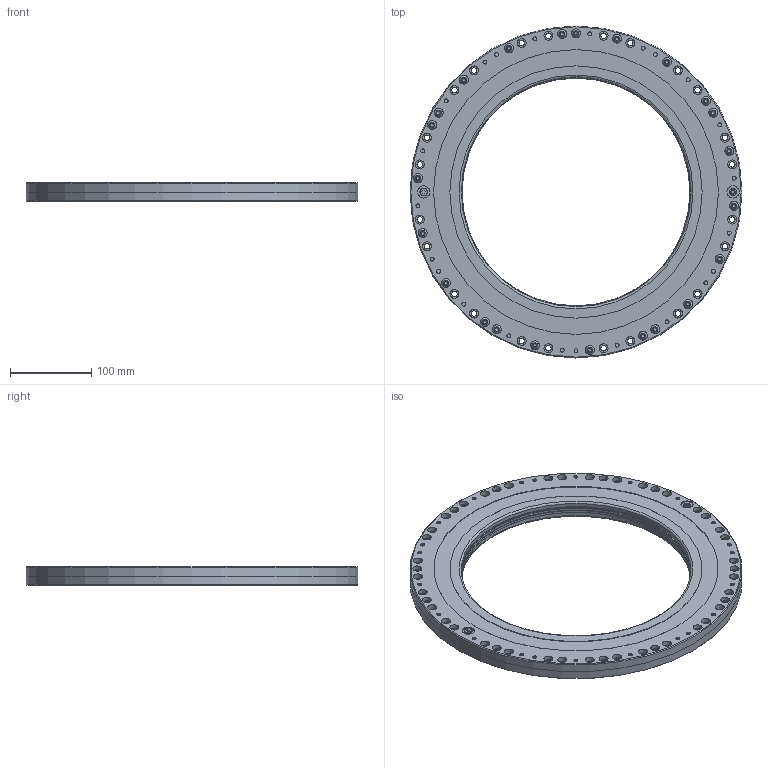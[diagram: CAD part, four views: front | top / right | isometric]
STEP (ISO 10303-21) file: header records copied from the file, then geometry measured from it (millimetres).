
FILE_DESCRIPTION(/* description */ ('Unknown'),/* implementation_level */ '2;1');
FILE_NAME(/* name */ '10405734_RC 280 N_4bar',/* time_stamp */ '2024-12-11T14:10:05+01:00',/* author */ ('Unknown'),/* organization */ ('Unknown'),/* preprocessor_version */ 'ST-DEVELOPER v19.4',/* originating_system */ 'Solid Edge',/* authorisation */ 'Unknown');
FILE_SCHEMA (('AUTOMOTIVE_DESIGN {1 0 10303 214 3 1 1}'));
Length unit declared in the file: millimetre
Products named in the file (7): 10405734; Linsenkopfschraube ISO 7380 TX M6 x 14 Ph 012.9; 34-00-0008-E001; 34-06-0051-E001; 34-06-0064-E001; Gewindestift DIN 913 - M6x4 VA; Verschlussschraube G1;8 x 4,5
Assembly tree (54 placements, depth 2):
  10405734
    Linsenkopfschraube ISO 7380 TX M6 x 14 Ph 012.9  x46
    34-00-0008-E001  x2
    34-06-0051-E001
    34-06-0064-E001
    Gewindestift DIN 913 - M6x4 VA
    Verschlussschraube G1;8 x 4,5  x3
Bounding box: 408 x 408 x 22.4 mm (x, y, z)
Volume: 1409441.9 mm3; surface area: 383202.9 mm2
Topology: 54 solids, 54 shells, 2427 faces, 5806 edges, 3625 vertices
Faces by surface type: cylinder 1495, cone 394, plane 301, torus 191, sphere 46
Full cylindrical faces by diameter (mm): 1.5 x5, 4.917 x47, 5.6 x46, 6 x94, 6.8 x95, 7.4 x1, 8.4 x1, 8.566 x4, 9.728 x4, 10.5 x46, 11 x96, 15 x4, 280 x2, 285 x2, 310 x2, 350 x2, 408 x2
Entity records: 12075 total; most frequent: CARTESIAN_POINT 2717, DIRECTION 1448, ORIENTED_EDGE 1144, FACE_BOUND 708, EDGE_LOOP 706, AXIS2_PLACEMENT_3D 673, EDGE_CURVE 572, VERTEX_POINT 470
